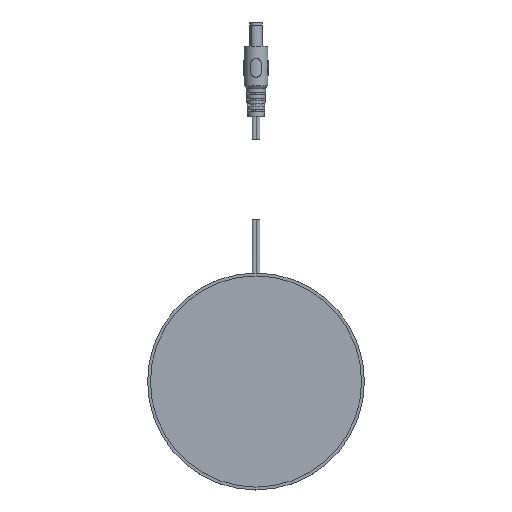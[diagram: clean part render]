
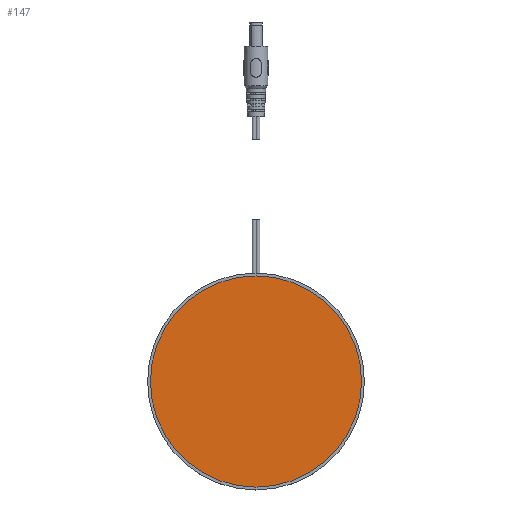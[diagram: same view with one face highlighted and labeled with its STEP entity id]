
A CAD part, top view. The second image highlights one B-rep face of the part: STEP entity #147.
In plain terms, the highlighted planar face has unit normal (0, 0, 1).
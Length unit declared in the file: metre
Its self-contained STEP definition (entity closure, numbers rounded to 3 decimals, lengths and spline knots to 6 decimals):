
#147=ADVANCED_FACE('3:185',(#353),#354,.T.);
#353=FACE_OUTER_BOUND('',#738,.T.);
#354=PLANE('',#739);
#738=EDGE_LOOP('',(#1200,#1201));
#739=AXIS2_PLACEMENT_3D('',#1202,#1203,#1204);
#1200=ORIENTED_EDGE('',*,*,#2587,.T.);
#1201=ORIENTED_EDGE('',*,*,#2606,.T.);
#1202=CARTESIAN_POINT('',(0.0,0.0,0.011));
#1203=DIRECTION('',(0.0,0.0,1.0));
#1204=DIRECTION('',(1.0,0.0,0.0));
#2587=EDGE_CURVE('3:239',#3074,#3071,#3075,.T.);
#2606=EDGE_CURVE('3:239',#3071,#3074,#3104,.T.);
#3071=VERTEX_POINT('',#3853);
#3074=VERTEX_POINT('',#3857);
#3075=CIRCLE('',#3858,0.04625);
#3104=CIRCLE('',#3890,0.04625);
#3853=CARTESIAN_POINT('',(-0.04625,0.,0.011));
#3857=CARTESIAN_POINT('',(0.04625,0.0,0.011));
#3858=AXIS2_PLACEMENT_3D('',#6278,#6279,#6280);
#3890=AXIS2_PLACEMENT_3D('',#6329,#6330,#6331);
#6278=CARTESIAN_POINT('',(0.0,0.0,0.011));
#6279=DIRECTION('',(0.0,0.0,1.0));
#6280=DIRECTION('',(1.0,0.0,-0.0));
#6329=CARTESIAN_POINT('',(0.0,0.0,0.011));
#6330=DIRECTION('',(0.0,0.0,1.0));
#6331=DIRECTION('',(1.0,0.0,-0.0));
